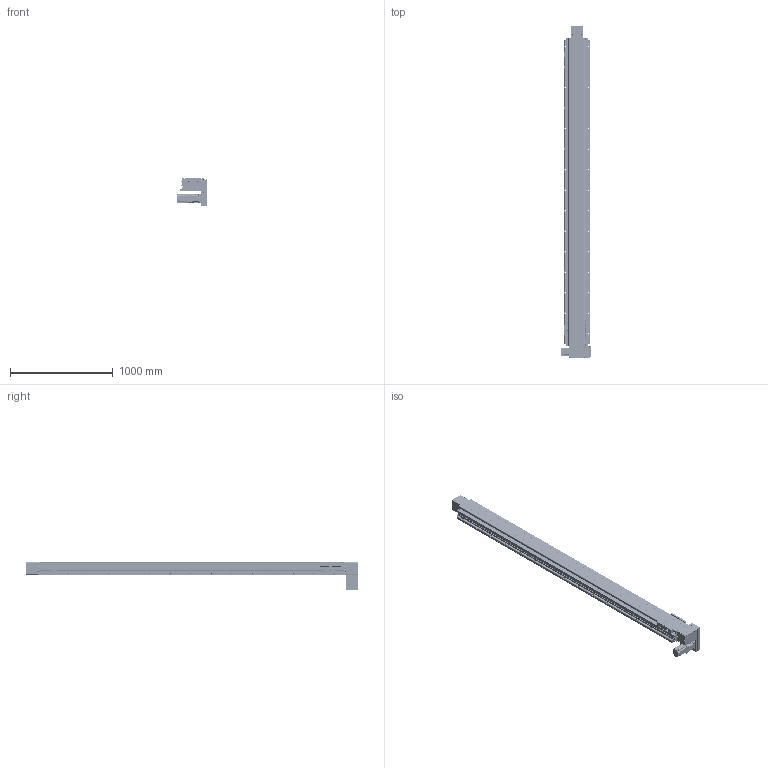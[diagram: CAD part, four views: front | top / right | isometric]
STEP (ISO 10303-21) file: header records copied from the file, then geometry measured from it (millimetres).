
FILE_DESCRIPTION(/* description */ (''),/* implementation_level */ '2;1');
FILE_NAME(/* name */ '\\192.168.0.160\disk1\HAN SHIN Master\B-설계부문\C-표준\B-2024년\BC02-표준도면\+로봇 개선표준도면\홈페이지 표준 도면\홈페이지 최종 작업 폴더\3D\HSB\HSB210\HSB210-DR7G-N-2700-L.stp',/* time_stamp */ '2025-01-06T18:40:57+09:00',/* author */ ('user'),/* organization */ (''),/* preprocessor_version */ 'ST-DEVELOPER v18.1',/* originating_system */ 'Autodesk Inventor 2022',/* authorisation */ '');
FILE_SCHEMA (('AUTOMOTIVE_DESIGN { 1 0 10303 214 3 1 1 }'));
Products named in the file (37): HSB210-DR7G-N-0500-L; HSB210 BASE - 2000ST; HSB210 FORNT HOUSUNG-Connecting Shaft; HSB210 FRONT COVER; REAR HOUSUNG-1-R1; HSB160 ARC COVER; HSB160 REAR SHAFT-2; REAR SHAFT--2; 6004ZZ; 6004ZZ Outer ring; 6004ZZ Shield1; 6004ZZ Inner ring; 6004ZZ Ball; 6004ZZ Shield2; UPCOVER; SIDE COVER; hsr_ftht_A-M6F_grease_nipple_joint; NIPPLE CAP(신규); TENSION PLATE; HG90STOPPER - 27L; HSB210 TABLE (TEST); HSB160 BEARING OVER; PGX90-H-1_3; hg-kr73_; HSB210 D MOTOR PLATE ASSY; HSB210 D BELT COVER-R1; HG200-R L-BELT COVER; HG200DACRYLCOVER001; HG200DACRYLCOVER003; HG200DACRYLCOVER002; 750W MOTOR PLATE; HSB210 END COVER-1; HSB160 SHAFT-1; 6308ZZ; HR200 SENSOR DOG; SENSOR BRK(EE-SX674A); EE_SX674A
Assembly tree (70 placements, depth 3):
  HSB210-DR7G-N-0500-L
    HSB210 BASE - 2000ST
    HSB210 FRONT COVER  x2
    HSB210 FORNT HOUSUNG-Connecting Shaft
    HSB160 ARC COVER  x4
    REAR HOUSUNG-1-R1
    HSB160 REAR SHAFT-2
    REAR SHAFT--2
    6004ZZ  x2
      6004ZZ Outer ring
      6004ZZ Shield1
      6004ZZ Inner ring
      6004ZZ Ball
      6004ZZ Shield2
    TENSION PLATE  x2
    UPCOVER
    SIDE COVER  x2
    HG90STOPPER - 27L  x4
    NIPPLE CAP(신규)  x4
    hsr_ftht_A-M6F_grease_nipple_joint  x4
    HSB210 TABLE (TEST)
    HSB160 BEARING OVER
    PGX90-H-1_3
    hg-kr73_
    HSB210 D MOTOR PLATE ASSY
      HSB210 D BELT COVER-R1
      HG200-R L-BELT COVER
      HG200DACRYLCOVER001
      HG200DACRYLCOVER002  x2
      HG200DACRYLCOVER003
      750W MOTOR PLATE
    HSB210 END COVER-1
    HSB160 SHAFT-1
    6308ZZ  x2
    SENSOR BRK(EE-SX674A)  x3
    EE_SX674A  x3
    HR200 SENSOR DOG
Bounding box: 284.5 x 3234 x 271.5 mm (x, y, z)
Volume: 28501120.3 mm3; surface area: 6161253.7 mm2
Topology: 131 solids, 133 shells, 8229 faces, 22983 edges, 15167 vertices
Faces by surface type: plane 6181, cylinder 1470, cone 410, sphere 84, torus 59, bspline 25
Full cylindrical faces by diameter (mm): 2.013 x2, 2.459 x50, 3 x8, 3.2 x4, 3.242 x58, 3.4 x22, 3.5 x6, 4.134 x2, 4.2 x16, 4.5 x36, 4.917 x36, 5 x56, 5.1 x1, 5.5 x13, 5.6 x4, 5.9 x4, 6 x15, 6.5 x9, 6.6 x8, 6.647 x60, 6.8 x9, 7 x20, 7.6 x4, 8 x13, 8.433 x2, 9 x46, 9.5 x7, 10 x5, 10.106 x30, 11 x20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
Entity records: 183165 total; most frequent: CARTESIAN_POINT 35440, ORIENTED_EDGE 30592, DIRECTION 29476, EDGE_CURVE 15296, LINE 11688, VECTOR 11688, VERTEX_POINT 10192, AXIS2_PLACEMENT_3D 8894
